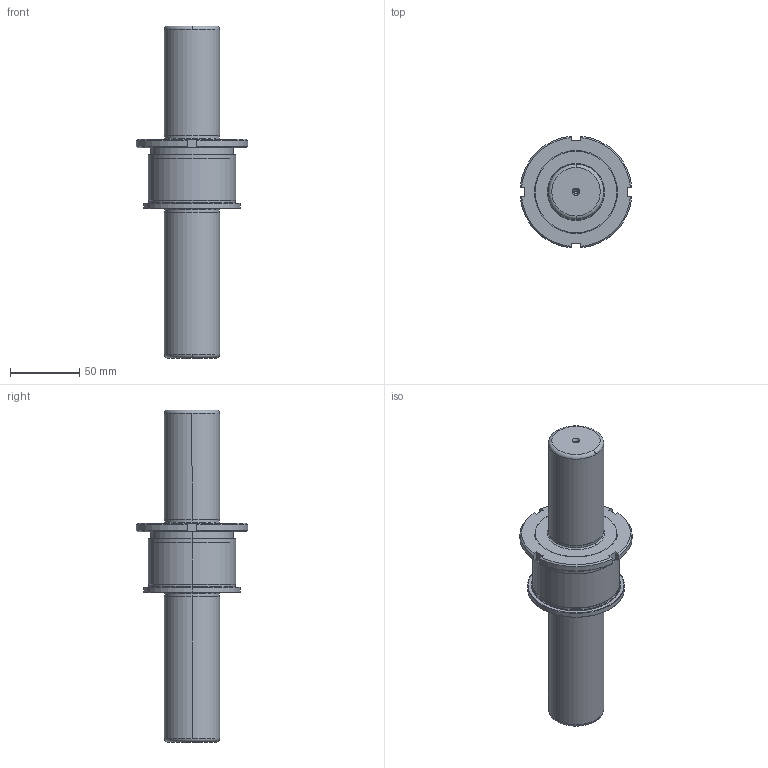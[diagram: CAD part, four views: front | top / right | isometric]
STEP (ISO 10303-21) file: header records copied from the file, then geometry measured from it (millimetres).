
FILE_DESCRIPTION((''),'2;1');
FILE_NAME('CMF_040_240.stp','2008-11-04T11:14:54',(''),(''),'Mechanical Desktop 2009','Mechanical Desktop 2009',', , ');
FILE_SCHEMA(('CONFIG_CONTROL_DESIGN'));
Length unit declared in the file: millimetre
Products named in the file (2): Product; blmdl1
Assembly tree (1 placements, depth 2):
  Product
    blmdl1
Bounding box: 80.7 x 80.7 x 240 mm (x, y, z)
Volume: 406526.7 mm3; surface area: 48824.1 mm2
Topology: 2 solids, 2 shells, 92 faces, 223 edges, 141 vertices
Faces by surface type: cylinder 30, cone 28, plane 24, bspline 6, torus 4
Entity records: 3035 total; most frequent: CARTESIAN_POINT 750, DIRECTION 496, ORIENTED_EDGE 438, EDGE_CURVE 219, AXIS2_PLACEMENT_3D 205, VERTEX_POINT 141, CIRCLE 117, EDGE_LOOP 104
